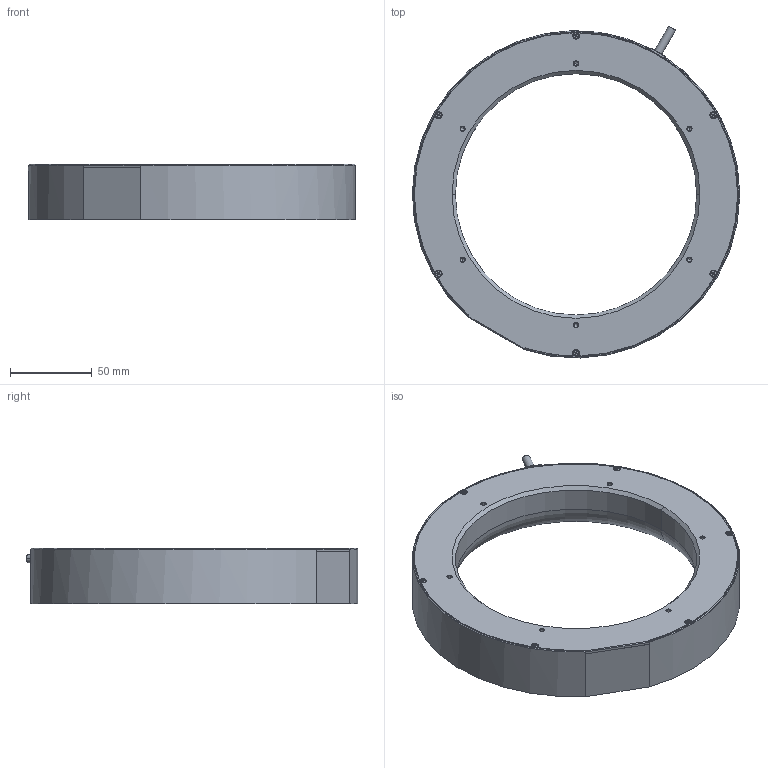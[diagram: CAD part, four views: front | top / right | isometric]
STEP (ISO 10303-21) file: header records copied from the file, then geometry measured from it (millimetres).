
FILE_DESCRIPTION((''),'2;1');
FILE_NAME('LS-LRSS-H-200-W','2022-09-02T17:21:00',('LumaSpec Vision'),('LumaSpec Vision'),'CREO PARAMETRIC BY PTC INC, 2020044','CREO PARAMETRIC BY PTC INC, 2020044','');
FILE_SCHEMA(('CONFIG_CONTROL_DESIGN'));
Length unit declared in the file: metre
Products named in the file (1): LS-LRSS-H-200-W
Bounding box: 199.99 x 202.9 x 34 mm (x, y, z)
Volume: 447049.3 mm3; surface area: 94218.1 mm2
Topology: 1 solids, 32 shells, 786 faces, 1847 edges, 1075 vertices
Faces by surface type: plane 377, cylinder 217, cone 154, torus 32, sphere 6
Entity records: 22117 total; most frequent: CARTESIAN_POINT 4261, DIRECTION 3840, ORIENTED_EDGE 3582, EDGE_CURVE 1791, AXIS2_PLACEMENT_3D 1399, VERTEX_POINT 1075, VECTOR 1042, LINE 1042
